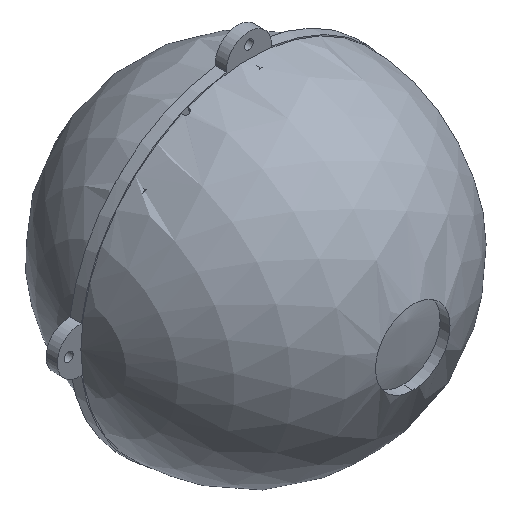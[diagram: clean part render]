
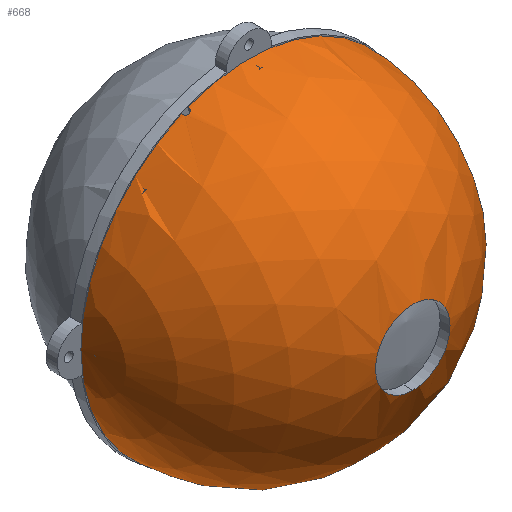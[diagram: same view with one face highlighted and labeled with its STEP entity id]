
A CAD part, isometric view. The second image highlights one B-rep face of the part: STEP entity #668.
In plain terms, the highlighted spherical face has radius 70 mm.
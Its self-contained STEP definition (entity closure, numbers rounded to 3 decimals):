
#668=ADVANCED_FACE('',(#1414,#1415),#1416,.T.);
#742=EDGE_CURVE('',#1551,#1552,#1553,.T.);
#750=EDGE_CURVE('',#1566,#1563,#1567,.T.);
#752=EDGE_CURVE('',#1569,#1570,#1571,.T.);
#758=EDGE_CURVE('',#1579,#1569,#1580,.T.);
#768=EDGE_CURVE('',#1563,#1590,#1593,.T.);
#770=EDGE_CURVE('',#1552,#1551,#1595,.T.);
#772=EDGE_CURVE('',#1570,#1566,#1597,.T.);
#774=EDGE_CURVE('',#1590,#1599,#1600,.T.);
#776=EDGE_CURVE('',#1599,#1602,#1603,.T.);
#778=EDGE_CURVE('',#1602,#1579,#1605,.T.);
#1414=FACE_BOUND('',#2406,.T.);
#1415=FACE_OUTER_BOUND('',#2407,.T.);
#1416=SPHERICAL_SURFACE('',#2408,70.0);
#1551=VERTEX_POINT('',#2560);
#1552=VERTEX_POINT('',#2561);
#1553=CIRCLE('',#2562,15.5);
#1563=VERTEX_POINT('',#2578);
#1566=VERTEX_POINT('',#2583);
#1567=B_SPLINE_CURVE_WITH_KNOTS('',3,(#2584,#2585,#2586,#2587),.UNSPECIFIED.,.F.,.F.,(4,4),(0.16,0.164),.UNSPECIFIED.);
#1569=VERTEX_POINT('',#2590);
#1570=VERTEX_POINT('',#2591);
#1571=B_SPLINE_CURVE_WITH_KNOTS('',3,(#2592,#2593,#2594,#2595),.UNSPECIFIED.,.F.,.F.,(4,4),(-0.008,0.0),.UNSPECIFIED.);
#1579=VERTEX_POINT('',#2610);
#1580=CIRCLE('',#2611,69.987);
#1590=VERTEX_POINT('',#2626);
#1593=CIRCLE('',#2631,69.987);
#1595=CIRCLE('',#2634,15.5);
#1597=B_SPLINE_CURVE_WITH_KNOTS('',3,(#2637,#2638,#2639,#2640,#2641,#2642,#2643,#2644,#2645,#2646,#2647,#2648,#2649,#2650,#2651,#2652,#2653,#2654,#2655,#2656,#2657,#2658,#2659,#2660,#2661,#2662,#2663,#2664),.UNSPECIFIED.,.F.,.F.,(4,3,3,3,3,3,3,3,3,4),(0.0,0.025,0.04,0.053,0.076,0.089,0.112,0.13,0.155,0.16),.UNSPECIFIED.);
#1599=VERTEX_POINT('',#2667);
#1600=CIRCLE('',#2668,70.0);
#1602=VERTEX_POINT('',#2671);
#1603=CIRCLE('',#2672,70.0);
#1605=CIRCLE('',#2675,70.0);
#2406=EDGE_LOOP('',(#3756,#3757));
#2407=EDGE_LOOP('',(#3758,#3759,#3760,#3761,#3762,#3763,#3764,#3765));
#2408=AXIS2_PLACEMENT_3D('',#3766,#3767,#3768);
#2560=CARTESIAN_POINT('',(0.,-68.262,-15.5));
#2561=CARTESIAN_POINT('',(0.,-68.262,15.5));
#2562=AXIS2_PLACEMENT_3D('',#3987,#3988,#3989);
#2578=CARTESIAN_POINT('',(-28.026,-0.515,64.142));
#2583=CARTESIAN_POINT('',(-28.029,-0.608,64.14));
#2584=CARTESIAN_POINT('',(-28.029,-0.608,64.14));
#2585=CARTESIAN_POINT('',(-28.029,-0.578,64.141));
#2586=CARTESIAN_POINT('',(-28.028,-0.546,64.141));
#2587=CARTESIAN_POINT('',(-28.026,-0.515,64.142));
#2590=CARTESIAN_POINT('',(-25.548,-0.413,65.17));
#2591=CARTESIAN_POINT('',(-25.535,-0.608,65.174));
#2592=CARTESIAN_POINT('',(-25.548,-0.413,65.17));
#2593=CARTESIAN_POINT('',(-25.539,-0.479,65.173));
#2594=CARTESIAN_POINT('',(-25.535,-0.544,65.174));
#2595=CARTESIAN_POINT('',(-25.535,-0.608,65.174));
#2610=CARTESIAN_POINT('',(-25.549,0.0,65.171));
#2611=AXIS2_PLACEMENT_3D('',#3995,#3996,#3997);
#2626=CARTESIAN_POINT('',(-28.027,0.0,64.144));
#2631=AXIS2_PLACEMENT_3D('',#4006,#4007,#4008);
#2634=AXIS2_PLACEMENT_3D('',#4009,#4010,#4011);
#2637=CARTESIAN_POINT('',(-25.535,-0.608,65.174));
#2638=CARTESIAN_POINT('',(-25.534,-0.819,65.172));
#2639=CARTESIAN_POINT('',(-25.583,-1.047,65.15));
#2640=CARTESIAN_POINT('',(-25.679,-1.244,65.108));
#2641=CARTESIAN_POINT('',(-25.737,-1.362,65.083));
#2642=CARTESIAN_POINT('',(-25.811,-1.469,65.051));
#2643=CARTESIAN_POINT('',(-25.893,-1.559,65.016));
#2644=CARTESIAN_POINT('',(-25.966,-1.639,64.985));
#2645=CARTESIAN_POINT('',(-26.051,-1.712,64.949));
#2646=CARTESIAN_POINT('',(-26.146,-1.772,64.91));
#2647=CARTESIAN_POINT('',(-26.308,-1.876,64.842));
#2648=CARTESIAN_POINT('',(-26.496,-1.938,64.763));
#2649=CARTESIAN_POINT('',(-26.678,-1.954,64.687));
#2650=CARTESIAN_POINT('',(-26.779,-1.963,64.645));
#2651=CARTESIAN_POINT('',(-26.878,-1.959,64.605));
#2652=CARTESIAN_POINT('',(-26.98,-1.941,64.563));
#2653=CARTESIAN_POINT('',(-27.165,-1.908,64.486));
#2654=CARTESIAN_POINT('',(-27.349,-1.826,64.411));
#2655=CARTESIAN_POINT('',(-27.502,-1.708,64.348));
#2656=CARTESIAN_POINT('',(-27.625,-1.613,64.298));
#2657=CARTESIAN_POINT('',(-27.726,-1.501,64.257));
#2658=CARTESIAN_POINT('',(-27.812,-1.366,64.223));
#2659=CARTESIAN_POINT('',(-27.927,-1.183,64.177));
#2660=CARTESIAN_POINT('',(-28.001,-0.962,64.149));
#2661=CARTESIAN_POINT('',(-28.022,-0.746,64.142));
#2662=CARTESIAN_POINT('',(-28.027,-0.7,64.141));
#2663=CARTESIAN_POINT('',(-28.029,-0.654,64.14));
#2664=CARTESIAN_POINT('',(-28.029,-0.608,64.14));
#2667=CARTESIAN_POINT('',(-70.0,0.0,0.));
#2668=AXIS2_PLACEMENT_3D('',#4012,#4013,#4014);
#2671=CARTESIAN_POINT('',(70.0,0.0,0.0));
#2672=AXIS2_PLACEMENT_3D('',#4015,#4016,#4017);
#2675=AXIS2_PLACEMENT_3D('',#4018,#4019,#4020);
#3756=ORIENTED_EDGE('',*,*,#742,.T.);
#3757=ORIENTED_EDGE('',*,*,#770,.T.);
#3758=ORIENTED_EDGE('',*,*,#758,.T.);
#3759=ORIENTED_EDGE('',*,*,#752,.T.);
#3760=ORIENTED_EDGE('',*,*,#772,.T.);
#3761=ORIENTED_EDGE('',*,*,#750,.T.);
#3762=ORIENTED_EDGE('',*,*,#768,.T.);
#3763=ORIENTED_EDGE('',*,*,#774,.T.);
#3764=ORIENTED_EDGE('',*,*,#776,.T.);
#3765=ORIENTED_EDGE('',*,*,#778,.T.);
#3766=CARTESIAN_POINT('',(0.0,0.0,0.0));
#3767=DIRECTION('',(-1.0,0.0,0.));
#3768=DIRECTION('',(0.,0.0,1.0));
#3987=CARTESIAN_POINT('',(0.0,-68.262,0.0));
#3988=DIRECTION('',(-0.0,1.0,0.0));
#3989=DIRECTION('',(0.,0.0,1.0));
#3995=CARTESIAN_POINT('',(1.234,0.0,0.511));
#3996=DIRECTION('',(0.924,0.0,0.383));
#3997=DIRECTION('',(-0.383,0.0,0.924));
#4006=CARTESIAN_POINT('',(-1.244,0.0,-0.515));
#4007=DIRECTION('',(-0.924,0.0,-0.383));
#4008=DIRECTION('',(0.383,0.0,-0.924));
#4009=CARTESIAN_POINT('',(0.0,-68.262,0.0));
#4010=DIRECTION('',(-0.0,1.0,0.0));
#4011=DIRECTION('',(0.,0.0,1.0));
#4012=CARTESIAN_POINT('',(0.0,0.0,0.0));
#4013=DIRECTION('',(0.0,-1.0,0.0));
#4014=DIRECTION('',(-1.0,0.0,0.));
#4015=CARTESIAN_POINT('',(0.0,0.0,0.0));
#4016=DIRECTION('',(0.0,-1.0,0.0));
#4017=DIRECTION('',(-1.0,0.0,0.));
#4018=CARTESIAN_POINT('',(0.0,0.0,0.0));
#4019=DIRECTION('',(0.0,-1.0,0.0));
#4020=DIRECTION('',(-1.0,0.0,0.));
